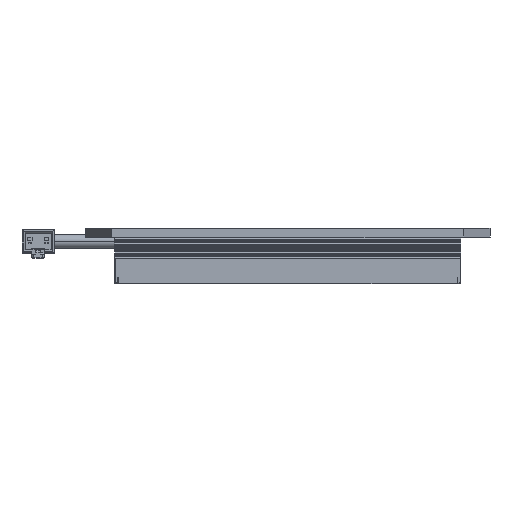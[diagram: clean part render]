
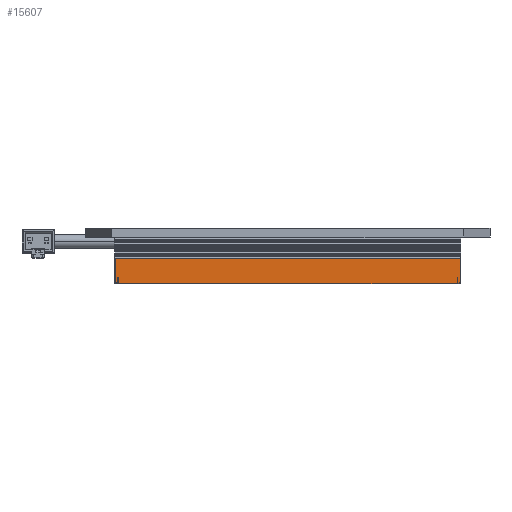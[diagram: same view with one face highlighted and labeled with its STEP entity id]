
A CAD part, left-side view. The second image highlights one B-rep face of the part: STEP entity #15607.
In plain terms, the highlighted planar face has unit normal (-1, 0, 0).
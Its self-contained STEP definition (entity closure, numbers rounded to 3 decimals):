
#136=DIRECTION('',(0.,-1.,0.));
#137=VECTOR('',#136,0.2);
#138=CARTESIAN_POINT('',(-56.5,-55.3,-13.));
#139=LINE('',#138,#137);
#140=DIRECTION('',(0.,0.,1.));
#141=VECTOR('',#140,2.);
#142=CARTESIAN_POINT('',(-56.5,-55.3,-15.));
#143=LINE('',#142,#141);
#144=DIRECTION('',(0.,-1.,0.));
#145=VECTOR('',#144,110.6);
#146=CARTESIAN_POINT('',(-56.5,55.3,-15.));
#147=LINE('',#146,#145);
#148=DIRECTION('',(0.,0.,-1.));
#149=VECTOR('',#148,2.);
#150=CARTESIAN_POINT('',(-56.5,55.3,-13.));
#151=LINE('',#150,#149);
#152=DIRECTION('',(0.,-1.,0.));
#153=VECTOR('',#152,0.2);
#154=CARTESIAN_POINT('',(-56.5,55.5,-13.));
#155=LINE('',#154,#153);
#156=DIRECTION('',(0.,-1.,0.));
#157=VECTOR('',#156,0.8);
#158=CARTESIAN_POINT('',(-56.5,-55.5,-14.8));
#159=LINE('',#158,#157);
#160=DIRECTION('',(0.,0.,-1.));
#161=VECTOR('',#160,1.8);
#162=CARTESIAN_POINT('',(-56.5,-55.5,-13.));
#163=LINE('',#162,#161);
#9308=DIRECTION('',(0.,0.,-1.));
#9309=VECTOR('',#9308,7.95);
#9310=CARTESIAN_POINT('',(-56.5,-56.3,-6.85));
#9311=LINE('',#9310,#9309);
#9330=DIRECTION('',(0.,-1.,0.));
#9331=VECTOR('',#9330,112.6);
#9332=CARTESIAN_POINT('',(-56.5,56.3,-6.85));
#9333=LINE('',#9332,#9331);
#9344=DIRECTION('',(0.,0.,1.));
#9345=VECTOR('',#9344,7.95);
#9346=CARTESIAN_POINT('',(-56.5,56.3,-14.8));
#9347=LINE('',#9346,#9345);
#9544=DIRECTION('',(0.,1.,0.));
#9545=VECTOR('',#9544,0.8);
#9546=CARTESIAN_POINT('',(-56.5,55.5,-14.8));
#9547=LINE('',#9546,#9545);
#9564=DIRECTION('',(0.,0.,-1.));
#9565=VECTOR('',#9564,1.8);
#9566=CARTESIAN_POINT('',(-56.5,55.5,-13.));
#9567=LINE('',#9566,#9565);
#12014=CARTESIAN_POINT('',(-56.5,55.5,-13.));
#12016=VERTEX_POINT('',#12014);
#12174=CARTESIAN_POINT('',(-56.5,-55.5,-14.8));
#12176=VERTEX_POINT('',#12174);
#12177=CARTESIAN_POINT('',(-56.5,-55.5,-13.));
#12178=VERTEX_POINT('',#12177);
#12179=CARTESIAN_POINT('',(-56.5,-56.3,-14.8));
#12180=VERTEX_POINT('',#12179);
#12185=CARTESIAN_POINT('',(-56.5,56.3,-6.85));
#12186=CARTESIAN_POINT('',(-56.5,-56.3,-6.85));
#12187=VERTEX_POINT('',#12185);
#12188=VERTEX_POINT('',#12186);
#12189=CARTESIAN_POINT('',(-56.5,55.5,-14.8));
#12190=VERTEX_POINT('',#12189);
#12191=CARTESIAN_POINT('',(-56.5,56.3,-14.8));
#12192=VERTEX_POINT('',#12191);
#12347=CARTESIAN_POINT('',(-56.5,55.3,-15.));
#12349=VERTEX_POINT('',#12347);
#12350=CARTESIAN_POINT('',(-56.5,-55.3,-15.));
#12351=VERTEX_POINT('',#12350);
#14615=CARTESIAN_POINT('',(-56.5,55.3,-13.));
#14617=VERTEX_POINT('',#14615);
#14621=CARTESIAN_POINT('',(-56.5,-55.3,-13.));
#14622=VERTEX_POINT('',#14621);
#15580=CARTESIAN_POINT('',(-56.5,-56.5,0.));
#15581=DIRECTION('',(-1.,0.,0.));
#15582=DIRECTION('',(0.,1.,0.));
#15583=AXIS2_PLACEMENT_3D('',#15580,#15581,#15582);
#15584=PLANE('',#15583);
#15585=ORIENTED_EDGE('',*,*,#15523,.F.);
#15587=ORIENTED_EDGE('',*,*,#15586,.F.);
#15589=ORIENTED_EDGE('',*,*,#15588,.F.);
#15590=ORIENTED_EDGE('',*,*,#15564,.F.);
#15591=ORIENTED_EDGE('',*,*,#15503,.F.);
#15593=ORIENTED_EDGE('',*,*,#15592,.T.);
#15595=ORIENTED_EDGE('',*,*,#15594,.T.);
#15597=ORIENTED_EDGE('',*,*,#15596,.T.);
#15599=ORIENTED_EDGE('',*,*,#15598,.T.);
#15601=ORIENTED_EDGE('',*,*,#15600,.T.);
#15603=ORIENTED_EDGE('',*,*,#15602,.F.);
#15604=ORIENTED_EDGE('',*,*,#15453,.F.);
#15605=EDGE_LOOP('',(#15585,#15587,#15589,#15590,#15591,#15593,#15595,#15597,
#15599,#15601,#15603,#15604));
#15606=FACE_OUTER_BOUND('',#15605,.F.);
#15453=EDGE_CURVE('',#12178,#12176,#163,.T.);
#15503=EDGE_CURVE('',#12016,#14617,#155,.T.);
#15523=EDGE_CURVE('',#14622,#12178,#139,.T.);
#15564=EDGE_CURVE('',#14617,#12349,#151,.T.);
#15586=EDGE_CURVE('',#12351,#14622,#143,.T.);
#15588=EDGE_CURVE('',#12349,#12351,#147,.T.);
#15592=EDGE_CURVE('',#12016,#12190,#9567,.T.);
#15594=EDGE_CURVE('',#12190,#12192,#9547,.T.);
#15596=EDGE_CURVE('',#12192,#12187,#9347,.T.);
#15598=EDGE_CURVE('',#12187,#12188,#9333,.T.);
#15600=EDGE_CURVE('',#12188,#12180,#9311,.T.);
#15602=EDGE_CURVE('',#12176,#12180,#159,.T.);
#15607=ADVANCED_FACE('',(#15606),#15584,.T.);
